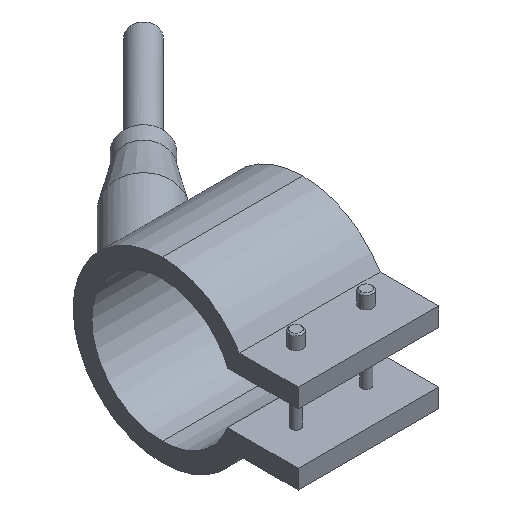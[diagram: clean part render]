
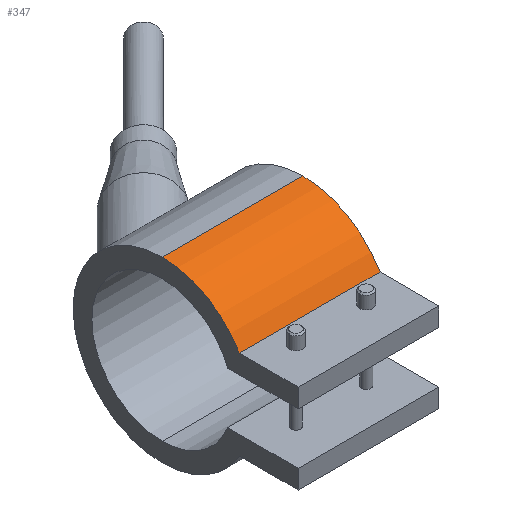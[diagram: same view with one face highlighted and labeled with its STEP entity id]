
A CAD part, isometric view. The second image highlights one B-rep face of the part: STEP entity #347.
In plain terms, the highlighted cylindrical face has radius 19 mm (diameter 38 mm), a partial arc.
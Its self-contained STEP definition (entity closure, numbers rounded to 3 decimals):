
#228=CARTESIAN_POINT('Line Origine',(15.,0.,19.)) ;
#232=CARTESIAN_POINT('Vertex',(15.,0.,19.)) ;
#234=CARTESIAN_POINT('Vertex',(-15.,0.,19.)) ;
#317=CARTESIAN_POINT('Axis2P3D Location',(15.,0.,0.)) ;
#322=CARTESIAN_POINT('Axis2P3D Location',(-15.,0.,0.)) ;
#326=CARTESIAN_POINT('Vertex',(-15.,-16.454,9.5)) ;
#329=CARTESIAN_POINT('Line Origine',(15.,-16.454,9.5)) ;
#333=CARTESIAN_POINT('Vertex',(15.,-16.454,9.5)) ;
#336=CARTESIAN_POINT('Axis2P3D Location',(15.,0.,0.)) ;
#229=DIRECTION('Vector Direction',(1.,0.,0.)) ;
#318=DIRECTION('Axis2P3D Direction',(1.,0.,-0.)) ;
#319=DIRECTION('Axis2P3D XDirection',(0.,0.,1.)) ;
#323=DIRECTION('Axis2P3D Direction',(1.,0.,-0.)) ;
#330=DIRECTION('Vector Direction',(1.,0.,0.)) ;
#337=DIRECTION('Axis2P3D Direction',(1.,0.,-0.)) ;
#320=AXIS2_PLACEMENT_3D('Cylinder Axis2P3D',#317,#318,#319) ;
#324=AXIS2_PLACEMENT_3D('Circle Axis2P3D',#322,#323,$) ;
#338=AXIS2_PLACEMENT_3D('Circle Axis2P3D',#336,#337,$) ;
#342=ORIENTED_EDGE('',*,*,#236,.T.) ;
#343=ORIENTED_EDGE('',*,*,#328,.T.) ;
#344=ORIENTED_EDGE('',*,*,#335,.F.) ;
#345=ORIENTED_EDGE('',*,*,#340,.F.) ;
#230=VECTOR('Line Direction',#229,1.) ;
#331=VECTOR('Line Direction',#330,1.) ;
#347=ADVANCED_FACE('29030030',(#346),#321,.T.) ;
#325=CIRCLE('generated circle',#324,19.) ;
#339=CIRCLE('generated circle',#338,19.) ;
#321=CYLINDRICAL_SURFACE('generated cylinder',#320,19.) ;
#236=EDGE_CURVE('',#233,#235,#231,.F.) ;
#328=EDGE_CURVE('',#235,#327,#325,.T.) ;
#335=EDGE_CURVE('',#334,#327,#332,.F.) ;
#340=EDGE_CURVE('',#233,#334,#339,.T.) ;
#341=EDGE_LOOP('',(#342,#343,#344,#345)) ;
#346=FACE_OUTER_BOUND('',#341,.T.) ;
#231=LINE('Line',#228,#230) ;
#332=LINE('Line',#329,#331) ;
#233=VERTEX_POINT('',#232) ;
#235=VERTEX_POINT('',#234) ;
#327=VERTEX_POINT('',#326) ;
#334=VERTEX_POINT('',#333) ;
